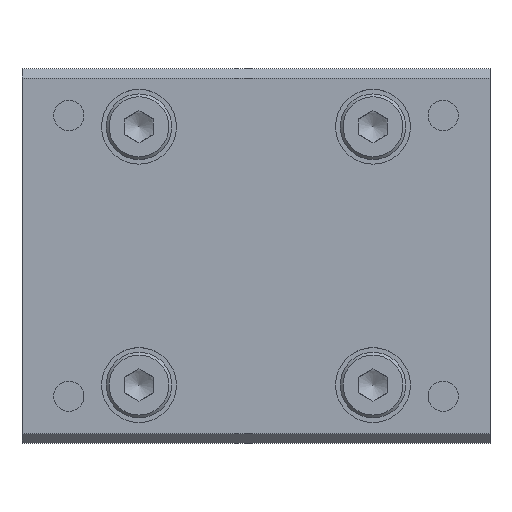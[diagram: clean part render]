
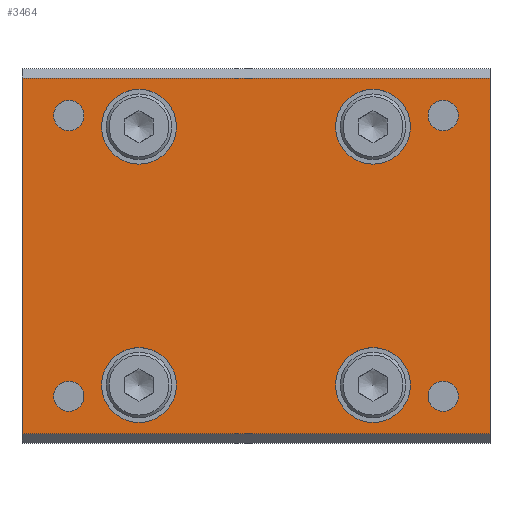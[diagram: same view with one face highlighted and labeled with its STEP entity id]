
A CAD part, top view. The second image highlights one B-rep face of the part: STEP entity #3464.
In plain terms, the highlighted planar face has unit normal (0, 0, 1).
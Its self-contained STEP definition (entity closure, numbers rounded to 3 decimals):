
#2682=CARTESIAN_POINT('',(50.0,19.0,10.));
#2683=VERTEX_POINT('',#2682);
#2690=CARTESIAN_POINT('',(50.0,-19.0,10.));
#2691=VERTEX_POINT('',#2690);
#2692=CARTESIAN_POINT('',(50.0,-19.0,10.));
#2693=DIRECTION('',(0.0,1.0,0.0));
#2694=VECTOR('',#2693,38.0);
#2695=LINE('',#2692,#2694);
#2696=EDGE_CURVE('',#2691,#2683,#2695,.T.);
#2835=CARTESIAN_POINT('',(16.5,-13.8,10.));
#2836=VERTEX_POINT('',#2835);
#2837=CARTESIAN_POINT('',(12.5,-13.8,10.));
#2838=DIRECTION('',(0.0,0.0,-1.0));
#2839=DIRECTION('',(1.0,0.0,0.0));
#2840=AXIS2_PLACEMENT_3D('',#2837,#2838,#2839);
#2841=CIRCLE('',#2840,4.0);
#2842=EDGE_CURVE('',#2836,#2836,#2841,.T.);
#2904=CARTESIAN_POINT('',(16.5,13.8,10.));
#2905=VERTEX_POINT('',#2904);
#2906=CARTESIAN_POINT('',(12.5,13.8,10.));
#2907=DIRECTION('',(0.0,0.0,-1.0));
#2908=DIRECTION('',(1.0,0.0,0.0));
#2909=AXIS2_PLACEMENT_3D('',#2906,#2907,#2908);
#2910=CIRCLE('',#2909,4.0);
#2911=EDGE_CURVE('',#2905,#2905,#2910,.T.);
#2985=CARTESIAN_POINT('',(41.5,-13.8,10.));
#2986=VERTEX_POINT('',#2985);
#2987=CARTESIAN_POINT('',(37.5,-13.8,10.));
#2988=DIRECTION('',(0.0,0.0,-1.0));
#2989=DIRECTION('',(1.0,0.0,0.0));
#2990=AXIS2_PLACEMENT_3D('',#2987,#2988,#2989);
#2991=CIRCLE('',#2990,4.0);
#2992=EDGE_CURVE('',#2986,#2986,#2991,.T.);
#3026=CARTESIAN_POINT('',(41.5,13.8,10.));
#3027=VERTEX_POINT('',#3026);
#3028=CARTESIAN_POINT('',(37.5,13.8,10.));
#3029=DIRECTION('',(0.0,0.0,-1.0));
#3030=DIRECTION('',(1.0,0.0,0.0));
#3031=AXIS2_PLACEMENT_3D('',#3028,#3029,#3030);
#3032=CIRCLE('',#3031,4.0);
#3033=EDGE_CURVE('',#3027,#3027,#3032,.T.);
#3098=CARTESIAN_POINT('',(6.621,-15.,10.));
#3099=VERTEX_POINT('',#3098);
#3100=CARTESIAN_POINT('',(5.,-15.,10.));
#3101=DIRECTION('',(0.0,0.0,-1.0));
#3102=DIRECTION('',(1.0,0.0,0.0));
#3103=AXIS2_PLACEMENT_3D('',#3100,#3101,#3102);
#3104=CIRCLE('',#3103,1.621);
#3105=EDGE_CURVE('',#3099,#3099,#3104,.T.);
#3147=CARTESIAN_POINT('',(6.621,15.,10.));
#3148=VERTEX_POINT('',#3147);
#3149=CARTESIAN_POINT('',(5.0,15.,10.));
#3150=DIRECTION('',(0.0,0.0,-1.0));
#3151=DIRECTION('',(1.0,0.0,0.0));
#3152=AXIS2_PLACEMENT_3D('',#3149,#3150,#3151);
#3153=CIRCLE('',#3152,1.621);
#3154=EDGE_CURVE('',#3148,#3148,#3153,.T.);
#3196=CARTESIAN_POINT('',(46.621,-15.,10.));
#3197=VERTEX_POINT('',#3196);
#3198=CARTESIAN_POINT('',(45.,-15.,10.));
#3199=DIRECTION('',(0.0,0.0,-1.0));
#3200=DIRECTION('',(1.0,0.0,0.0));
#3201=AXIS2_PLACEMENT_3D('',#3198,#3199,#3200);
#3202=CIRCLE('',#3201,1.621);
#3203=EDGE_CURVE('',#3197,#3197,#3202,.T.);
#3245=CARTESIAN_POINT('',(46.621,15.,10.));
#3246=VERTEX_POINT('',#3245);
#3247=CARTESIAN_POINT('',(45.0,15.,10.));
#3248=DIRECTION('',(0.0,0.0,-1.0));
#3249=DIRECTION('',(1.0,0.0,0.0));
#3250=AXIS2_PLACEMENT_3D('',#3247,#3248,#3249);
#3251=CIRCLE('',#3250,1.621);
#3252=EDGE_CURVE('',#3246,#3246,#3251,.T.);
#3400=CARTESIAN_POINT('',(0.0,19.0,10.));
#3401=VERTEX_POINT('',#3400);
#3408=CARTESIAN_POINT('',(0.0,19.0,10.));
#3409=DIRECTION('',(1.0,0.0,0.0));
#3410=VECTOR('',#3409,50.0);
#3411=LINE('',#3408,#3410);
#3412=EDGE_CURVE('',#3401,#2683,#3411,.T.);
#3417=CARTESIAN_POINT('',(0.0,-20.0,10.));
#3418=DIRECTION('',(0.0,0.0,1.0));
#3419=DIRECTION('',(1.0,0.0,0.0));
#3420=AXIS2_PLACEMENT_3D('',#3417,#3418,#3419);
#3421=PLANE('',#3420);
#3422=CARTESIAN_POINT('',(0.0,-19.0,10.));
#3423=VERTEX_POINT('',#3422);
#3424=CARTESIAN_POINT('',(50.0,-19.0,10.));
#3425=DIRECTION('',(-1.0,0.0,0.0));
#3426=VECTOR('',#3425,50.0);
#3427=LINE('',#3424,#3426);
#3428=EDGE_CURVE('',#2691,#3423,#3427,.T.);
#3429=ORIENTED_EDGE('',*,*,#3428,.F.);
#3430=ORIENTED_EDGE('',*,*,#2696,.T.);
#3431=ORIENTED_EDGE('',*,*,#3412,.F.);
#3432=CARTESIAN_POINT('',(0.0,19.0,10.));
#3433=DIRECTION('',(0.0,-1.0,0.0));
#3434=VECTOR('',#3433,38.0);
#3435=LINE('',#3432,#3434);
#3436=EDGE_CURVE('',#3401,#3423,#3435,.T.);
#3437=ORIENTED_EDGE('',*,*,#3436,.T.);
#3438=EDGE_LOOP('',(#3429,#3430,#3431,#3437));
#3439=FACE_OUTER_BOUND('',#3438,.T.);
#3440=ORIENTED_EDGE('',*,*,#3252,.T.);
#3441=EDGE_LOOP('',(#3440));
#3442=FACE_BOUND('',#3441,.T.);
#3443=ORIENTED_EDGE('',*,*,#3203,.T.);
#3444=EDGE_LOOP('',(#3443));
#3445=FACE_BOUND('',#3444,.T.);
#3446=ORIENTED_EDGE('',*,*,#3154,.T.);
#3447=EDGE_LOOP('',(#3446));
#3448=FACE_BOUND('',#3447,.T.);
#3449=ORIENTED_EDGE('',*,*,#3105,.T.);
#3450=EDGE_LOOP('',(#3449));
#3451=FACE_BOUND('',#3450,.T.);
#3452=ORIENTED_EDGE('',*,*,#3033,.T.);
#3453=EDGE_LOOP('',(#3452));
#3454=FACE_BOUND('',#3453,.T.);
#3455=ORIENTED_EDGE('',*,*,#2992,.T.);
#3456=EDGE_LOOP('',(#3455));
#3457=FACE_BOUND('',#3456,.T.);
#3458=ORIENTED_EDGE('',*,*,#2911,.T.);
#3459=EDGE_LOOP('',(#3458));
#3460=FACE_BOUND('',#3459,.T.);
#3461=ORIENTED_EDGE('',*,*,#2842,.T.);
#3462=EDGE_LOOP('',(#3461));
#3463=FACE_BOUND('',#3462,.T.);
#3464=ADVANCED_FACE('',(#3439,#3442,#3445,#3448,#3451,#3454,#3457,#3460,#3463),#3421,.T.);
